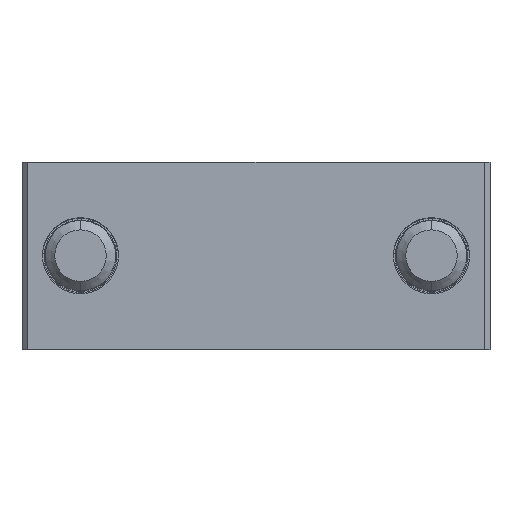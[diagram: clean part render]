
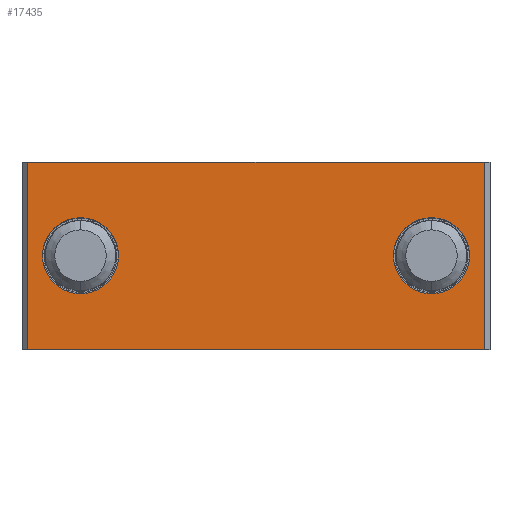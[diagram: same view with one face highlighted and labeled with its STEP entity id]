
A CAD part, top view. The second image highlights one B-rep face of the part: STEP entity #17435.
In plain terms, the highlighted planar face has unit normal (0, 0, 1).
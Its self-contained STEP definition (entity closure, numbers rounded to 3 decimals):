
#76 = CARTESIAN_POINT ( 'NONE',  ( -50.949, 30.958, 13.5 ) ) ;
#265 = ORIENTED_EDGE ( 'NONE', *, *, #962, .F. ) ;
#297 = VERTEX_POINT ( 'NONE', #8589 ) ;
#344 = DIRECTION ( 'NONE',  ( 0., -1., 0. ) ) ;
#546 = CIRCLE ( 'NONE', #1586, 3.25 ) ;
#962 = EDGE_CURVE ( 'NONE', #297, #8170, #10721, .T. ) ;
#1119 = EDGE_LOOP ( 'NONE', ( #1938, #13937, #265, #13761 ) ) ;
#1125 = AXIS2_PLACEMENT_3D ( 'NONE', #5353, #14894, #6712 ) ;
#1355 = VERTEX_POINT ( 'NONE', #10435 ) ;
#1586 = AXIS2_PLACEMENT_3D ( 'NONE', #14633, #6458, #16006 ) ;
#1626 = VECTOR ( 'NONE', #13282, 1000. ) ;
#1938 = ORIENTED_EDGE ( 'NONE', *, *, #3419, .F. ) ;
#2274 = CARTESIAN_POINT ( 'NONE',  ( -46.449, 27.708, 13.5 ) ) ;
#2975 = EDGE_CURVE ( 'NONE', #12274, #297, #14845, .T. ) ;
#3419 = EDGE_CURVE ( 'NONE', #1355, #12274, #4564, .T. ) ;
#3726 = DIRECTION ( 'NONE',  ( 0., 1., 0. ) ) ;
#3750 = EDGE_CURVE ( 'NONE', #8170, #1355, #15703, .T. ) ;
#3778 = ORIENTED_EDGE ( 'NONE', *, *, #9410, .F. ) ;
#3898 = DIRECTION ( 'NONE',  ( 1., 0., 0. ) ) ;
#4134 = VECTOR ( 'NONE', #16745, 1000. ) ;
#4375 = VECTOR ( 'NONE', #3726, 1000. ) ;
#4419 = CIRCLE ( 'NONE', #10773, 3.25 ) ;
#4564 = LINE ( 'NONE', #14055, #4134 ) ;
#4955 = CARTESIAN_POINT ( 'NONE',  ( -46.449, 19.708, 13.5 ) ) ;
#5031 = CIRCLE ( 'NONE', #1125, 3.25 ) ;
#5242 = AXIS2_PLACEMENT_3D ( 'NONE', #4955, #14495, #6309 ) ;
#5353 = CARTESIAN_POINT ( 'NONE',  ( -80.949, 27.708, 13.5 ) ) ;
#5591 = EDGE_LOOP ( 'NONE', ( #14980, #14374 ) ) ;
#6309 = DIRECTION ( 'NONE',  ( -1., 0., 0. ) ) ;
#6347 = DIRECTION ( 'NONE',  ( 0., 0., 1. ) ) ;
#6383 = EDGE_LOOP ( 'NONE', ( #3778, #13025 ) ) ;
#6458 = DIRECTION ( 'NONE',  ( 0., 0., 1. ) ) ;
#6521 = CARTESIAN_POINT ( 'NONE',  ( -65.949, 35.708, 13.5 ) ) ;
#6571 = FACE_OUTER_BOUND ( 'NONE', #1119, .T. ) ;
#6712 = DIRECTION ( 'NONE',  ( 0., -1., 0. ) ) ;
#7281 = CIRCLE ( 'NONE', #11684, 3.25 ) ;
#7634 = PLANE ( 'NONE',  #5242 ) ;
#8170 = VERTEX_POINT ( 'NONE', #10433 ) ;
#8499 = DIRECTION ( 'NONE',  ( 0., 0., 1. ) ) ;
#8589 = CARTESIAN_POINT ( 'NONE',  ( -85.449, 35.708, 13.5 ) ) ;
#8875 = EDGE_CURVE ( 'NONE', #15633, #16703, #5031, .T. ) ;
#9410 = EDGE_CURVE ( 'NONE', #13198, #13710, #546, .T. ) ;
#10060 = CARTESIAN_POINT ( 'NONE',  ( -80.949, 24.458, 13.5 ) ) ;
#10288 = VECTOR ( 'NONE', #3898, 1000. ) ;
#10433 = CARTESIAN_POINT ( 'NONE',  ( -46.449, 35.708, 13.5 ) ) ;
#10435 = CARTESIAN_POINT ( 'NONE',  ( -46.449, 19.708, 13.5 ) ) ;
#10721 = LINE ( 'NONE', #6521, #10288 ) ;
#10773 = AXIS2_PLACEMENT_3D ( 'NONE', #14533, #6347, #15899 ) ;
#10791 = EDGE_CURVE ( 'NONE', #16703, #15633, #7281, .T. ) ;
#11424 = CARTESIAN_POINT ( 'NONE',  ( -80.949, 30.958, 13.5 ) ) ;
#11684 = AXIS2_PLACEMENT_3D ( 'NONE', #16668, #8499, #344 ) ;
#12274 = VERTEX_POINT ( 'NONE', #15685 ) ;
#13025 = ORIENTED_EDGE ( 'NONE', *, *, #15104, .F. ) ;
#13198 = VERTEX_POINT ( 'NONE', #13613 ) ;
#13282 = DIRECTION ( 'NONE',  ( 0., -1., 0. ) ) ;
#13613 = CARTESIAN_POINT ( 'NONE',  ( -50.949, 24.458, 13.5 ) ) ;
#13710 = VERTEX_POINT ( 'NONE', #76 ) ;
#13761 = ORIENTED_EDGE ( 'NONE', *, *, #2975, .F. ) ;
#13864 = FACE_BOUND ( 'NONE', #5591, .T. ) ;
#13937 = ORIENTED_EDGE ( 'NONE', *, *, #3750, .F. ) ;
#14055 = CARTESIAN_POINT ( 'NONE',  ( -65.949, 19.708, 13.5 ) ) ;
#14374 = ORIENTED_EDGE ( 'NONE', *, *, #8875, .F. ) ;
#14495 = DIRECTION ( 'NONE',  ( 0., 0., -1. ) ) ;
#14533 = CARTESIAN_POINT ( 'NONE',  ( -50.949, 27.708, 13.5 ) ) ;
#14633 = CARTESIAN_POINT ( 'NONE',  ( -50.949, 27.708, 13.5 ) ) ;
#14845 = LINE ( 'NONE', #16045, #4375 ) ;
#14894 = DIRECTION ( 'NONE',  ( 0., 0., 1. ) ) ;
#14980 = ORIENTED_EDGE ( 'NONE', *, *, #10791, .F. ) ;
#15104 = EDGE_CURVE ( 'NONE', #13710, #13198, #4419, .T. ) ;
#15633 = VERTEX_POINT ( 'NONE', #11424 ) ;
#15685 = CARTESIAN_POINT ( 'NONE',  ( -85.449, 19.708, 13.5 ) ) ;
#15703 = LINE ( 'NONE', #2274, #1626 ) ;
#15899 = DIRECTION ( 'NONE',  ( 0., -1., 0. ) ) ;
#16006 = DIRECTION ( 'NONE',  ( 0., -1., 0. ) ) ;
#16045 = CARTESIAN_POINT ( 'NONE',  ( -85.449, 27.708, 13.5 ) ) ;
#16668 = CARTESIAN_POINT ( 'NONE',  ( -80.949, 27.708, 13.5 ) ) ;
#16703 = VERTEX_POINT ( 'NONE', #10060 ) ;
#16745 = DIRECTION ( 'NONE',  ( -1., 0., 0. ) ) ;
#17028 = FACE_BOUND ( 'NONE', #6383, .T. ) ;
#17435 = ADVANCED_FACE ( 'NONE', ( #17028, #13864, #6571 ), #7634, .F. ) ;
